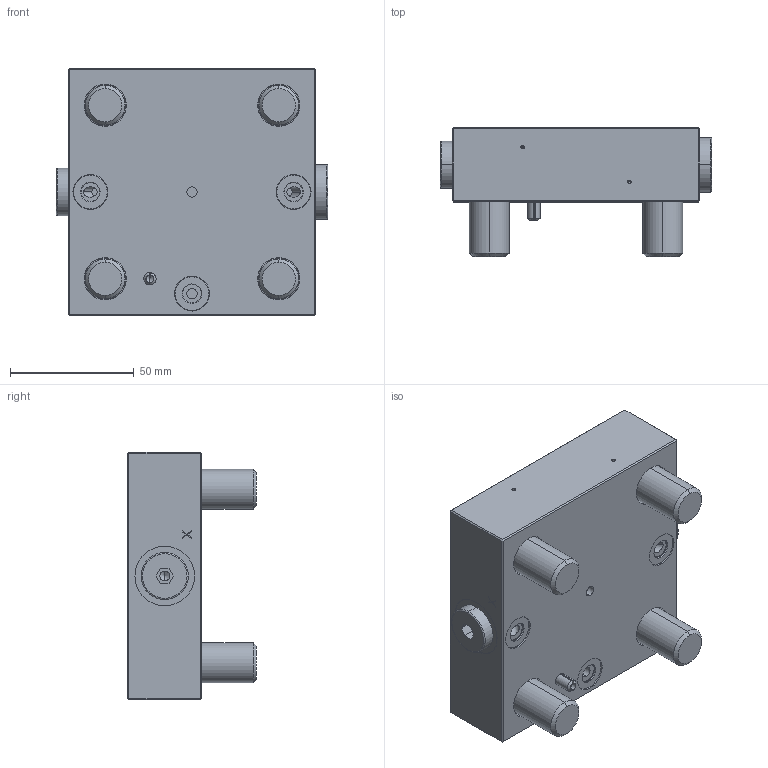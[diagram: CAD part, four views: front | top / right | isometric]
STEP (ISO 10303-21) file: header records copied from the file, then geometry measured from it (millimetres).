
FILE_DESCRIPTION (( 'STEP AP214' ), '1' );
FILE_NAME ('D32430.STEP', '2017-03-17T14:56:11', ( '' ), ( '' ), 'SwSTEP 2.0', 'SolidWorks 2016', '' );
FILE_SCHEMA (( 'AUTOMOTIVE_DESIGN' ));
Length unit declared in the file: millimetre
Products named in the file (1): D32430
Bounding box: 109.4 x 52 x 100 mm (x, y, z)
Volume: 303439.8 mm3; surface area: 60038.9 mm2
Topology: 12 solids, 15 shells, 339 faces, 754 edges, 462 vertices
Faces by surface type: plane 151, cylinder 104, cone 36, bspline 24, torus 20, sphere 4
Entity records: 13350 total; most frequent: CARTESIAN_POINT 1996, DIRECTION 1680, ORIENTED_EDGE 1476, EDGE_CURVE 738, AXIS2_PLACEMENT_3D 658, VERTEX_POINT 462, EDGE_LOOP 394, VECTOR 364
